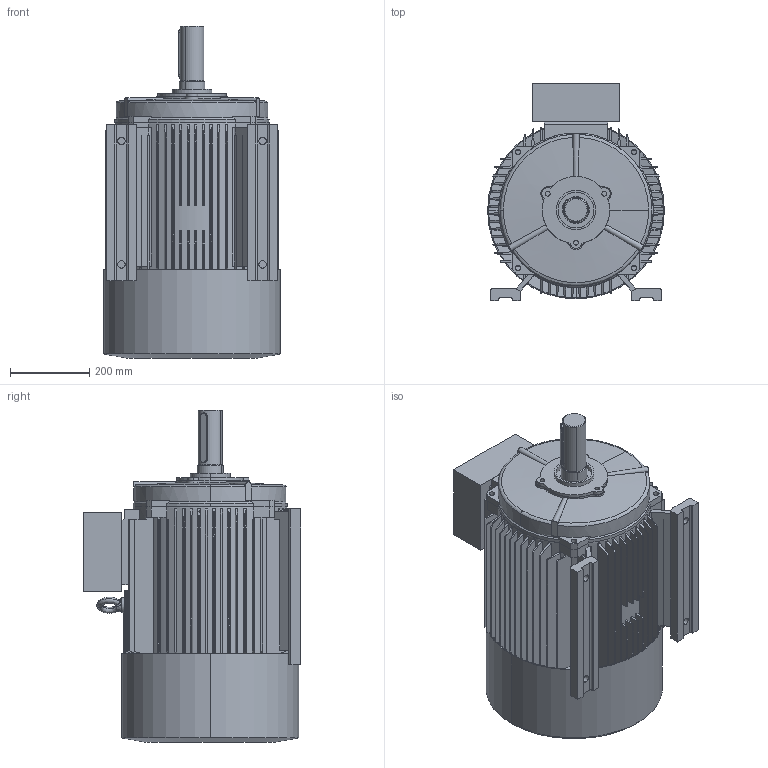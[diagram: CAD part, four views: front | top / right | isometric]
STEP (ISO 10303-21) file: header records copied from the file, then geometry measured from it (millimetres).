
FILE_DESCRIPTION (( 'STEP AP203' ), '1' );
FILE_NAME ('M3-225M-4p-FF-B3.STEP', '2019-07-11T08:49:53', ( '' ), ( '' ), 'SwSTEP 2.0', 'SolidWorks 2012', '' );
FILE_SCHEMA (( 'CONFIG_CONTROL_DESIGN' ));
Length unit declared in the file: millimetre
Products named in the file (9): M3-225M-4p-FF-B3; Eyebolts GB_GB_FASTENER_SCREWS_FRS M16-N_10; Y2-225ﾀiﾍ_-ｼ+､; Y2-225-4ﾃｦﾂ-ｩﾃ_-ｼ+､; Y2-225MB3+ｷﾎｨ_-ｼ+､; Y2-225-4Íß¦ð-Ô©Ã_-¼+¤; 225-4ﾍﾟ+ｦｰ+ｳ_-ｼ+､; Plain parallel keys_GB_CONNECTING_PIECE_KEYS_CSK 18X125_7; 225-4ﾍﾟ+_-ｼ+､
Assembly tree (8 placements, depth 3):
  M3-225M-4p-FF-B3
    Y2-225-4Íß¦ð-Ô©Ã_-¼+¤
    225-4ﾍﾟ+ｦｰ+ｳ_-ｼ+､
      Plain parallel keys_GB_CONNECTING_PIECE_KEYS_CSK 18X125_7
      225-4ﾍﾟ+_-ｼ+､
    Y2-225MB3+ｷﾎｨ_-ｼ+､
    Y2-225ﾀiﾍ_-ｼ+､
    Y2-225-4ﾃｦﾂ-ｩﾃ_-ｼ+､
    Eyebolts GB_GB_FASTENER_SCREWS_FRS M16-N_10
Bounding box: 446 x 548 x 837.5 mm (x, y, z)
Volume: 20427870.3 mm3; surface area: 3876262.5 mm2
Topology: 8 solids, 8 shells, 801 faces, 2154 edges, 1421 vertices
Faces by surface type: plane 311, cylinder 276, cone 178, bspline 36
Entity records: 31838 total; most frequent: CARTESIAN_POINT 11135, ORIENTED_EDGE 4308, DIRECTION 3879, EDGE_CURVE 2154, AXIS2_PLACEMENT_3D 1433, VERTEX_POINT 1421, LINE 1013, VECTOR 1013
